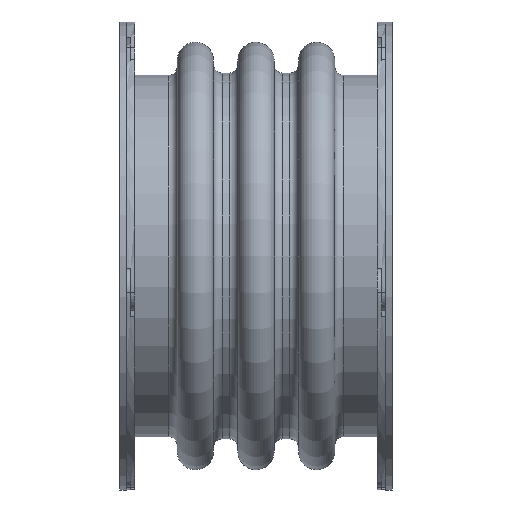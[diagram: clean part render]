
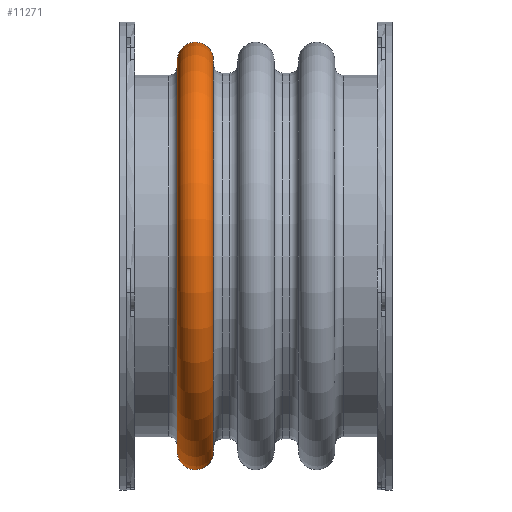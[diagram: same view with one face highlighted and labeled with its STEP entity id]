
A CAD part, front view. The second image highlights one B-rep face of the part: STEP entity #11271.
In plain terms, the highlighted toroidal (fillet/blend) face has major radius 292.1 mm and minor radius 26.988 mm.
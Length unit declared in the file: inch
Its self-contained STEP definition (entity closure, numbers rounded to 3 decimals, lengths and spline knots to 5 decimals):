
#30=TOROIDAL_SURFACE('',#12422,11.5,1.0625);
#227=FACE_BOUND('',#1936,.T.);
#1138=FACE_OUTER_BOUND('',#1935,.T.);
#1935=EDGE_LOOP('',(#8682));
#1936=EDGE_LOOP('',(#8683));
#4014=CIRCLE('',#12421,11.52205);
#4015=CIRCLE('',#12423,11.52205);
#5051=VERTEX_POINT('',#18639);
#5052=VERTEX_POINT('',#18642);
#6368=EDGE_CURVE('',#5051,#5051,#4014,.T.);
#6369=EDGE_CURVE('',#5052,#5052,#4015,.T.);
#8682=ORIENTED_EDGE('',*,*,#6369,.F.);
#8683=ORIENTED_EDGE('',*,*,#6368,.T.);
#11271=ADVANCED_FACE('',(#1138,#227),#30,.T.);
#12421=AXIS2_PLACEMENT_3D('',#18640,#15159,#15160);
#12422=AXIS2_PLACEMENT_3D('',#18641,#15161,#15162);
#12423=AXIS2_PLACEMENT_3D('',#18643,#15163,#15164);
#15159=DIRECTION('center_axis',(1.,0.,0.));
#15160=DIRECTION('ref_axis',(0.,0.,-1.));
#15161=DIRECTION('center_axis',(1.,0.,0.));
#15162=DIRECTION('ref_axis',(0.,0.,-1.));
#15163=DIRECTION('center_axis',(1.,0.,0.));
#15164=DIRECTION('ref_axis',(0.,0.,-1.));
#18639=CARTESIAN_POINT('',(-4.62477,11.52205,0.));
#18640=CARTESIAN_POINT('Origin',(-4.62477,0.,
0.));
#18641=CARTESIAN_POINT('Origin',(-3.5625,0.,0.));
#18642=CARTESIAN_POINT('',(-2.50023,11.52205,0.));
#18643=CARTESIAN_POINT('Origin',(-2.50023,0.,
0.));
